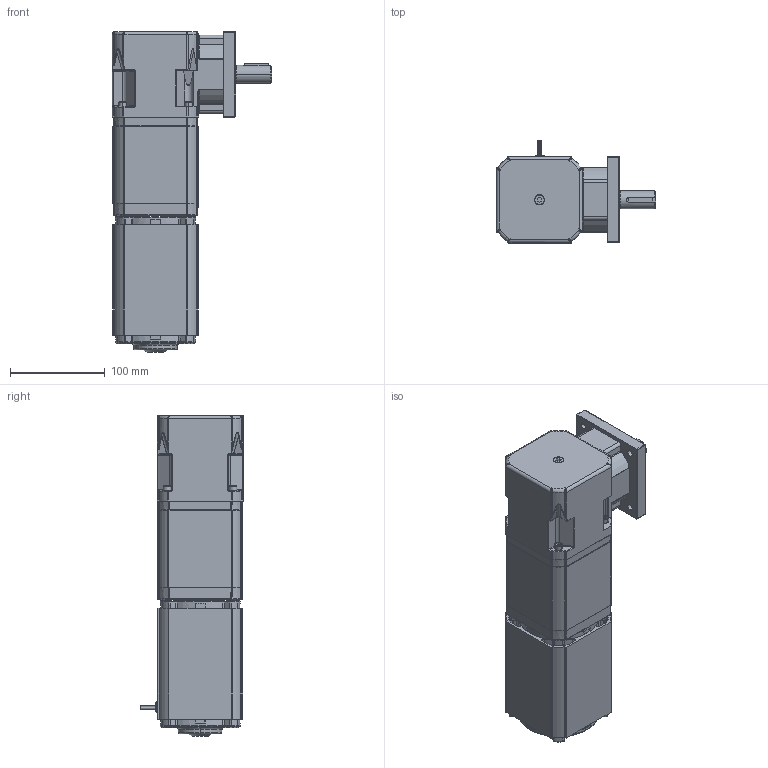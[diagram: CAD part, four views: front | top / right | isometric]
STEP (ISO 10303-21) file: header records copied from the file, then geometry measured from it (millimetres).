
FILE_DESCRIPTION (( 'STEP AP214' ), '1' );
FILE_NAME ('AC8040NV-RP7300_2S.STEP', '2013-08-28T20:14:25', ( '' ), ( '' ), 'SwSTEP 2.0', 'SolidWorks 2013', '' );
FILE_SCHEMA (( 'AUTOMOTIVE_DESIGN' ));
Length unit declared in the file: inch
Products named in the file (1): AC8040NV-RP7300_2S
Bounding box: 168.09 x 107.92 x 338.59 mm (x, y, z)
Surface area: 211561.3 mm2 (no closed solid volume)
Topology: 0 solids, 46 shells, 1155 faces, 3547 edges, 2328 vertices
Faces by surface type: cylinder 444, plane 333, bspline 147, cone 115, torus 95, sphere 21
Entity records: 58248 total; most frequent: CARTESIAN_POINT 12918, DIRECTION 6569, ORIENTED_EDGE 5772, EDGE_CURVE 3502, AXIS2_PLACEMENT_3D 2549, VERTEX_POINT 2328, CIRCLE 1540, VECTOR 1471
